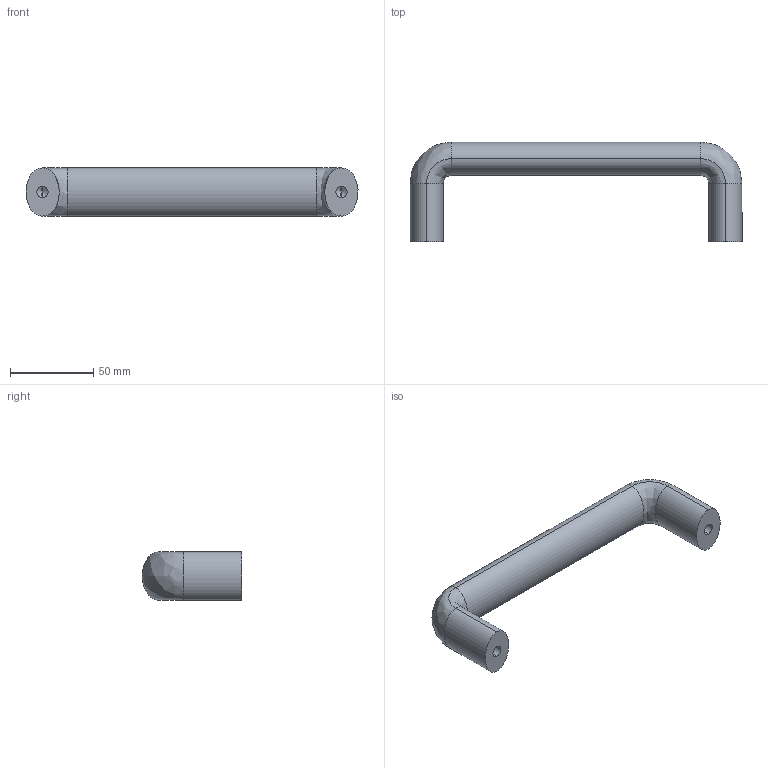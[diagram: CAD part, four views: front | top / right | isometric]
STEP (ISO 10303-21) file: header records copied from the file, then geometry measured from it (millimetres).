
FILE_DESCRIPTION (( 'STEP AP203' ), '1' );
FILE_NAME ('SK4-8017-3.STEP', '2018-11-02T05:34:19', ( 'admin' ), ( 'Microsoft' ), 'SwSTEP 2.0', 'SolidWorks 2015', '' );
FILE_SCHEMA (( 'CONFIG_CONTROL_DESIGN' ));
Length unit declared in the file: millimetre
Products named in the file (1): SK4-8017-3
Bounding box: 199.92 x 59.96 x 29 mm (x, y, z)
Volume: 120018.8 mm3; surface area: 22607.7 mm2
Topology: 1 solids, 1 shells, 20 faces, 42 edges, 22 vertices
Faces by surface type: bspline 10, cylinder 4, cone 4, plane 2
Entity records: 633 total; most frequent: CARTESIAN_POINT 219, ORIENTED_EDGE 76, DIRECTION 60, EDGE_CURVE 38, AXIS2_PLACEMENT_3D 23, VERTEX_POINT 22, EDGE_LOOP 22, FACE_OUTER_BOUND 20
